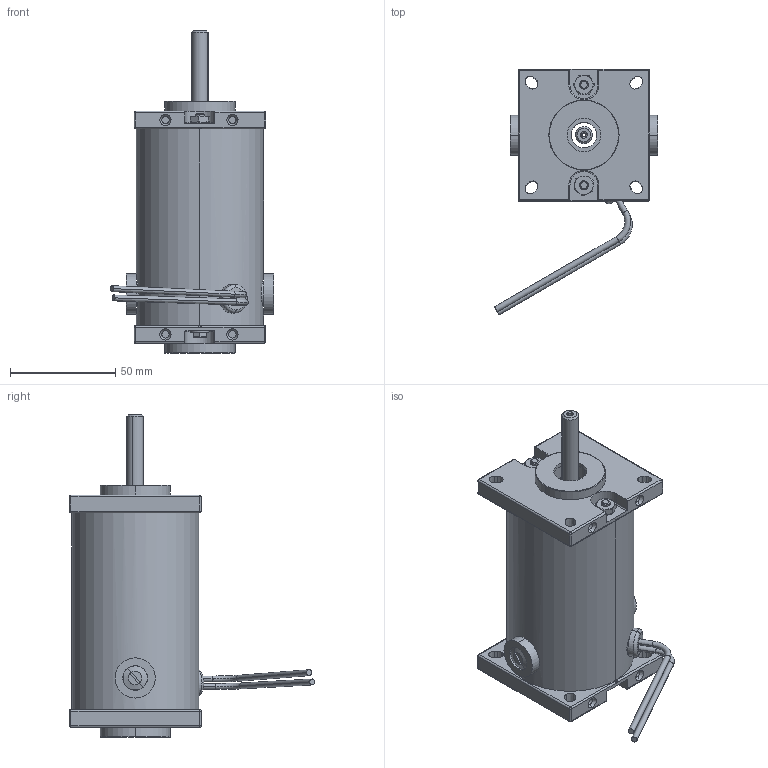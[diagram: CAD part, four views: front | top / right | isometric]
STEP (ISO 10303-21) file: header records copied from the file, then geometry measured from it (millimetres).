
FILE_DESCRIPTION (( 'STEP AP203' ), '1' );
FILE_NAME ('OUTLINE PM6013.STEP', '2006-08-03T14:25:07', ( 'Eng-KVV2' ), ( 'Groschopp' ), 'SwSTEP 2.0', 'SolidWorks 2005339', '' );
FILE_SCHEMA (( 'CONFIG_CONTROL_DESIGN' ));
Length unit declared in the file: inch
Products named in the file (1): OUTLINE PM6013
Bounding box: 77.35 x 116.4 x 152.96 mm (x, y, z)
Surface area: 43364.8 mm2 (no closed solid volume)
Topology: 0 solids, 26 shells, 326 faces, 844 edges, 544 vertices
Faces by surface type: cylinder 127, plane 106, cone 63, torus 30
Entity records: 10503 total; most frequent: CARTESIAN_POINT 2296, DIRECTION 1840, ORIENTED_EDGE 1518, EDGE_CURVE 844, AXIS2_PLACEMENT_3D 725, VERTEX_POINT 544, CIRCLE 398, VECTOR 390
